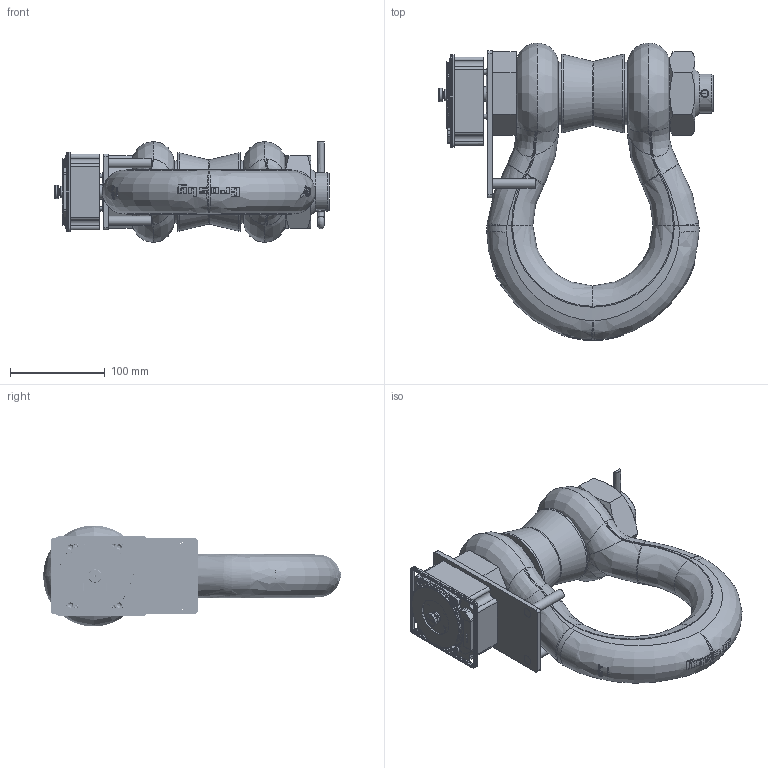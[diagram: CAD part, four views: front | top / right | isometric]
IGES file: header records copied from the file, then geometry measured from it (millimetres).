
Global section: file name: WLS25T; native system: Autodesk Inventor 2020; preprocessor: unknown; author: Achacko; date: 20191024.150123; units: millimetre
Bounding box: 289.77 x 314.26 x 106.42 mm (x, y, z)
Volume: 2181850.4 mm3; surface area: 368439.4 mm2
Topology: 25 solids, 40 shells, 6359 faces, 17605 edges, 11450 vertices
Faces by surface type: bspline 6359
